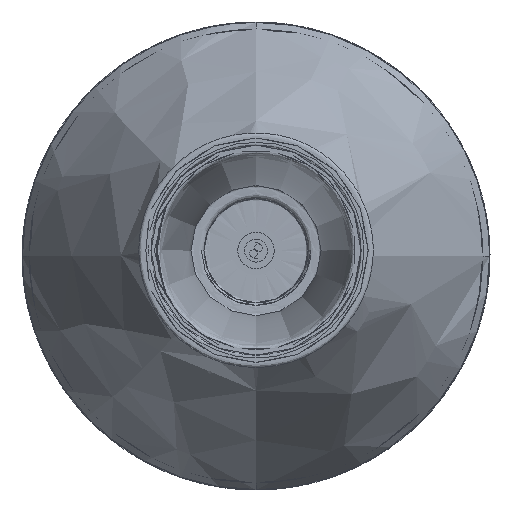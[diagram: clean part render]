
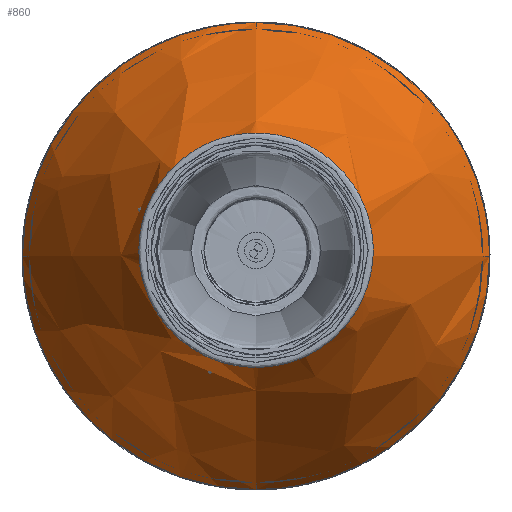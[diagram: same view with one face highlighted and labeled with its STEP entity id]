
A CAD part, top view. The second image highlights one B-rep face of the part: STEP entity #860.
In plain terms, the highlighted free-form (B-spline) face has degree [2, 3] with [9, 4] control points.
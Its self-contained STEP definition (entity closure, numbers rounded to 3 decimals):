
#860=ADVANCED_FACE('',(#8468),#127804,.T.);
#8468=FACE_OUTER_BOUND('',#16077,.T.);
#16077=EDGE_LOOP('',(#23754,#23755,#23756,#23757,#23758,#23759,#23760));
#23754=ORIENTED_EDGE('',*,*,#66258,.T.);
#23755=ORIENTED_EDGE('',*,*,#66221,.T.);
#23756=ORIENTED_EDGE('',*,*,#66258,.F.);
#23757=ORIENTED_EDGE('',*,*,#66257,.F.);
#23758=ORIENTED_EDGE('',*,*,#66256,.F.);
#23759=ORIENTED_EDGE('',*,*,#66255,.F.);
#23760=ORIENTED_EDGE('',*,*,#66254,.F.);
#66221=EDGE_CURVE('',#109176,#109176,#104333,.T.);
#66254=EDGE_CURVE('',#109194,#109195,#104351,.T.);
#66255=EDGE_CURVE('',#109195,#109196,#104352,.T.);
#66256=EDGE_CURVE('',#109196,#109197,#104353,.T.);
#66257=EDGE_CURVE('',#109197,#109194,#104354,.T.);
#66258=EDGE_CURVE('',#109194,#109176,#104355,.T.);
#104333=(
BOUNDED_CURVE()
B_SPLINE_CURVE(2,(#140307,#140308,#140309,#140310,#140311,#140312,#140313,
#140314,#140315),.UNSPECIFIED.,.T.,.F.)
B_SPLINE_CURVE_WITH_KNOTS((3,2,2,2,3),(0.,44.85,89.7,
134.55,179.4),.UNSPECIFIED.)
CURVE()
GEOMETRIC_REPRESENTATION_ITEM()
RATIONAL_B_SPLINE_CURVE((1.,0.707,1.,0.707,1.,0.707,
1.,0.707,1.))
REPRESENTATION_ITEM('')
);
#104351=(
BOUNDED_CURVE()
B_SPLINE_CURVE(2,(#140551,#140552,#140553),.UNSPECIFIED.,.F.,.F.)
B_SPLINE_CURVE_WITH_KNOTS((3,3),(0.,140.853),
 .UNSPECIFIED.)
CURVE()
GEOMETRIC_REPRESENTATION_ITEM()
RATIONAL_B_SPLINE_CURVE((1.,0.707,1.))
REPRESENTATION_ITEM('')
);
#104352=(
BOUNDED_CURVE()
B_SPLINE_CURVE(2,(#140554,#140555,#140556),.UNSPECIFIED.,.F.,.F.)
B_SPLINE_CURVE_WITH_KNOTS((3,3),(0.,140.853),.UNSPECIFIED.)
CURVE()
GEOMETRIC_REPRESENTATION_ITEM()
RATIONAL_B_SPLINE_CURVE((1.,0.707,1.))
REPRESENTATION_ITEM('')
);
#104353=(
BOUNDED_CURVE()
B_SPLINE_CURVE(2,(#140557,#140558,#140559),.UNSPECIFIED.,.F.,.F.)
B_SPLINE_CURVE_WITH_KNOTS((3,3),(0.,140.853),
 .UNSPECIFIED.)
CURVE()
GEOMETRIC_REPRESENTATION_ITEM()
RATIONAL_B_SPLINE_CURVE((1.,0.707,1.))
REPRESENTATION_ITEM('')
);
#104354=(
BOUNDED_CURVE()
B_SPLINE_CURVE(2,(#140560,#140561,#140562),.UNSPECIFIED.,.F.,.F.)
B_SPLINE_CURVE_WITH_KNOTS((3,3),(0.,140.853),.UNSPECIFIED.)
CURVE()
GEOMETRIC_REPRESENTATION_ITEM()
RATIONAL_B_SPLINE_CURVE((1.,0.707,1.))
REPRESENTATION_ITEM('')
);
#104355=(
BOUNDED_CURVE()
B_SPLINE_CURVE(3,(#140563,#140564,#140565,#140566),.UNSPECIFIED.,.F.,.F.)
B_SPLINE_CURVE_WITH_KNOTS((4,4),(0.364,136.021),
 .UNSPECIFIED.)
CURVE()
GEOMETRIC_REPRESENTATION_ITEM()
RATIONAL_B_SPLINE_CURVE((1.,1.,1.,1.))
REPRESENTATION_ITEM('')
);
#109176=VERTEX_POINT('',#140248);
#109194=VERTEX_POINT('',#140266);
#109195=VERTEX_POINT('',#140267);
#109196=VERTEX_POINT('',#140268);
#109197=VERTEX_POINT('',#140269);
#127804=(
BOUNDED_SURFACE()
B_SPLINE_SURFACE(2,3,((#140054,#140055,#140056,#140057),(#140058,#140059,
#140060,#140061),(#140062,#140063,#140064,#140065),(#140066,#140067,#140068,
#140069),(#140070,#140071,#140072,#140073),(#140074,#140075,#140076,#140077),
(#140078,#140079,#140080,#140081),(#140082,#140083,#140084,#140085),(#140086,
#140087,#140088,#140089)),.UNSPECIFIED.,.T.,.F.,.F.)
B_SPLINE_SURFACE_WITH_KNOTS((3,2,2,2,3),(4,4),(0.,180.,360.,540.,720.),
(0.,136.021),.UNSPECIFIED.)
GEOMETRIC_REPRESENTATION_ITEM()
RATIONAL_B_SPLINE_SURFACE(((1.,1.,1.,1.),(0.707,0.707,
0.707,0.707),(1.,1.,1.,1.),(0.707,0.707,
0.707,0.707),(1.,1.,1.,1.),(0.707,0.707,
0.707,0.707),(1.,1.,1.,1.),(0.707,0.707,
0.707,0.707),(1.,1.,1.,1.)))
REPRESENTATION_ITEM('')
SURFACE()
);
#140054=CARTESIAN_POINT('',(90.,0.,-101.001));
#140055=CARTESIAN_POINT('',(70.951,0.,-64.532));
#140056=CARTESIAN_POINT('',(51.901,0.,-28.063));
#140057=CARTESIAN_POINT('',(32.852,0.,8.406));
#140058=CARTESIAN_POINT('',(90.,90.,-101.001));
#140059=CARTESIAN_POINT('',(70.951,70.951,-64.532));
#140060=CARTESIAN_POINT('',(51.901,51.901,-28.063));
#140061=CARTESIAN_POINT('',(32.852,32.852,8.406));
#140062=CARTESIAN_POINT('',(0.,90.,-101.001));
#140063=CARTESIAN_POINT('',(0.,70.951,-64.532));
#140064=CARTESIAN_POINT('',(0.,51.901,-28.063));
#140065=CARTESIAN_POINT('',(0.,32.852,8.406));
#140066=CARTESIAN_POINT('',(-90.,90.,-101.001));
#140067=CARTESIAN_POINT('',(-70.951,70.951,-64.532));
#140068=CARTESIAN_POINT('',(-51.901,51.901,-28.063));
#140069=CARTESIAN_POINT('',(-32.852,32.852,8.406));
#140070=CARTESIAN_POINT('',(-90.,0.,-101.001));
#140071=CARTESIAN_POINT('',(-70.951,0.,-64.532));
#140072=CARTESIAN_POINT('',(-51.901,0.,-28.063));
#140073=CARTESIAN_POINT('',(-32.852,0.,8.406));
#140074=CARTESIAN_POINT('',(-90.,-90.,-101.001));
#140075=CARTESIAN_POINT('',(-70.951,-70.951,-64.532));
#140076=CARTESIAN_POINT('',(-51.901,-51.901,-28.063));
#140077=CARTESIAN_POINT('',(-32.852,-32.852,8.406));
#140078=CARTESIAN_POINT('',(0.,-90.,-101.001));
#140079=CARTESIAN_POINT('',(0.,-70.951,-64.532));
#140080=CARTESIAN_POINT('',(0.,-51.901,-28.063));
#140081=CARTESIAN_POINT('',(0.,-32.852,8.406));
#140082=CARTESIAN_POINT('',(90.,-90.,-101.001));
#140083=CARTESIAN_POINT('',(70.951,-70.951,-64.532));
#140084=CARTESIAN_POINT('',(51.901,-51.901,-28.063));
#140085=CARTESIAN_POINT('',(32.852,-32.852,8.406));
#140086=CARTESIAN_POINT('',(90.,0.,-101.001));
#140087=CARTESIAN_POINT('',(70.951,0.,-64.532));
#140088=CARTESIAN_POINT('',(51.901,0.,-28.063));
#140089=CARTESIAN_POINT('',(32.852,0.,8.406));
#140248=CARTESIAN_POINT('',(32.852,0.,8.406));
#140266=CARTESIAN_POINT('',(89.847,0.,-100.708));
#140267=CARTESIAN_POINT('',(0.,-89.847,-100.708));
#140268=CARTESIAN_POINT('',(-89.847,0.,-100.708));
#140269=CARTESIAN_POINT('',(0.,89.847,-100.708));
#140307=CARTESIAN_POINT('',(32.852,0.,8.406));
#140308=CARTESIAN_POINT('',(32.852,-32.852,8.406));
#140309=CARTESIAN_POINT('',(0.,-32.852,8.406));
#140310=CARTESIAN_POINT('',(-32.852,-32.852,8.406));
#140311=CARTESIAN_POINT('',(-32.852,0.,8.406));
#140312=CARTESIAN_POINT('',(-32.852,32.852,8.406));
#140313=CARTESIAN_POINT('',(0.,32.852,8.406));
#140314=CARTESIAN_POINT('',(32.852,32.852,8.406));
#140315=CARTESIAN_POINT('',(32.852,0.,8.406));
#140551=CARTESIAN_POINT('',(89.847,0.,-100.708));
#140552=CARTESIAN_POINT('',(89.847,-89.847,-100.708));
#140553=CARTESIAN_POINT('',(0.,-89.847,-100.708));
#140554=CARTESIAN_POINT('',(0.,-89.847,-100.708));
#140555=CARTESIAN_POINT('',(-89.847,-89.847,-100.708));
#140556=CARTESIAN_POINT('',(-89.847,0.,-100.708));
#140557=CARTESIAN_POINT('',(-89.847,0.,-100.708));
#140558=CARTESIAN_POINT('',(-89.847,89.847,-100.708));
#140559=CARTESIAN_POINT('',(0.,89.847,-100.708));
#140560=CARTESIAN_POINT('',(0.,89.847,-100.708));
#140561=CARTESIAN_POINT('',(89.847,89.847,-100.708));
#140562=CARTESIAN_POINT('',(89.847,0.,-100.708));
#140563=CARTESIAN_POINT('',(89.847,0.,-100.708));
#140564=CARTESIAN_POINT('',(70.849,0.,-64.337));
#140565=CARTESIAN_POINT('',(51.85,0.,-27.965));
#140566=CARTESIAN_POINT('',(32.852,0.,8.406));
